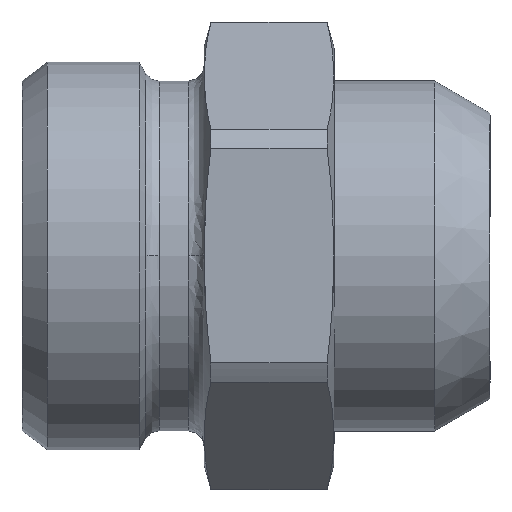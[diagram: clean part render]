
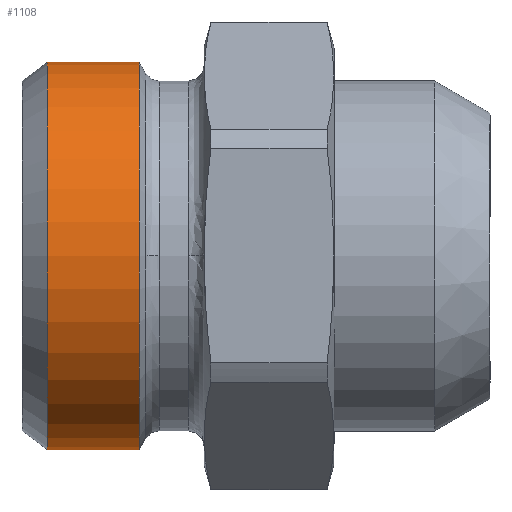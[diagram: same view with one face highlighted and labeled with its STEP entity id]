
A CAD part, top view. The second image highlights one B-rep face of the part: STEP entity #1108.
In plain terms, the highlighted cylindrical face has radius 14.91 mm (diameter 29.82 mm), a partial arc.
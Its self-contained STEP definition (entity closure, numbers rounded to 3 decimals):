
#442=CARTESIAN_POINT('',(0.,-14.91,17.063));
#443=VERTEX_POINT('',#442);
#444=CARTESIAN_POINT('',(0.,-14.91,9.993));
#445=VERTEX_POINT('',#444);
#446=CARTESIAN_POINT('',(0.,-14.91,17.063));
#447=DIRECTION('',(0.0,0.0,-1.0));
#448=VECTOR('',#447,7.07);
#449=LINE('',#446,#448);
#450=EDGE_CURVE('',#443,#445,#449,.T.);
#452=CARTESIAN_POINT('',(0.,14.91,17.063));
#453=VERTEX_POINT('',#452);
#461=CARTESIAN_POINT('',(0.,14.91,9.993));
#462=VERTEX_POINT('',#461);
#463=CARTESIAN_POINT('',(0.,14.91,9.993));
#464=DIRECTION('',(0.0,0.0,1.0));
#465=VECTOR('',#464,7.07);
#466=LINE('',#463,#465);
#467=EDGE_CURVE('',#462,#453,#466,.T.);
#984=CARTESIAN_POINT('',(0.,0.,9.993));
#985=DIRECTION('',(0.0,0.0,-1.0));
#986=DIRECTION('',(0.0,-1.0,0.0));
#987=AXIS2_PLACEMENT_3D('',#984,#985,#986);
#988=CIRCLE('',#987,14.91);
#989=EDGE_CURVE('',#462,#445,#988,.T.);
#1085=CARTESIAN_POINT('',(0.,0.,17.063));
#1086=DIRECTION('',(0.0,0.0,-1.0));
#1087=DIRECTION('',(0.0,-1.0,0.0));
#1088=AXIS2_PLACEMENT_3D('',#1085,#1086,#1087);
#1089=CIRCLE('',#1088,14.91);
#1090=EDGE_CURVE('',#453,#443,#1089,.T.);
#1097=CARTESIAN_POINT('',(0.,0.,13.528));
#1098=DIRECTION('',(0.,0.,-1.0));
#1099=DIRECTION('',(0.0,-1.0,0.0));
#1100=AXIS2_PLACEMENT_3D('',#1097,#1098,#1099);
#1101=CYLINDRICAL_SURFACE('',#1100,14.91);
#1102=ORIENTED_EDGE('',*,*,#450,.T.);
#1103=ORIENTED_EDGE('',*,*,#989,.F.);
#1104=ORIENTED_EDGE('',*,*,#467,.T.);
#1105=ORIENTED_EDGE('',*,*,#1090,.T.);
#1106=EDGE_LOOP('',(#1102,#1103,#1104,#1105));
#1107=FACE_OUTER_BOUND('',#1106,.T.);
#1108=ADVANCED_FACE('',(#1107),#1101,.T.);
